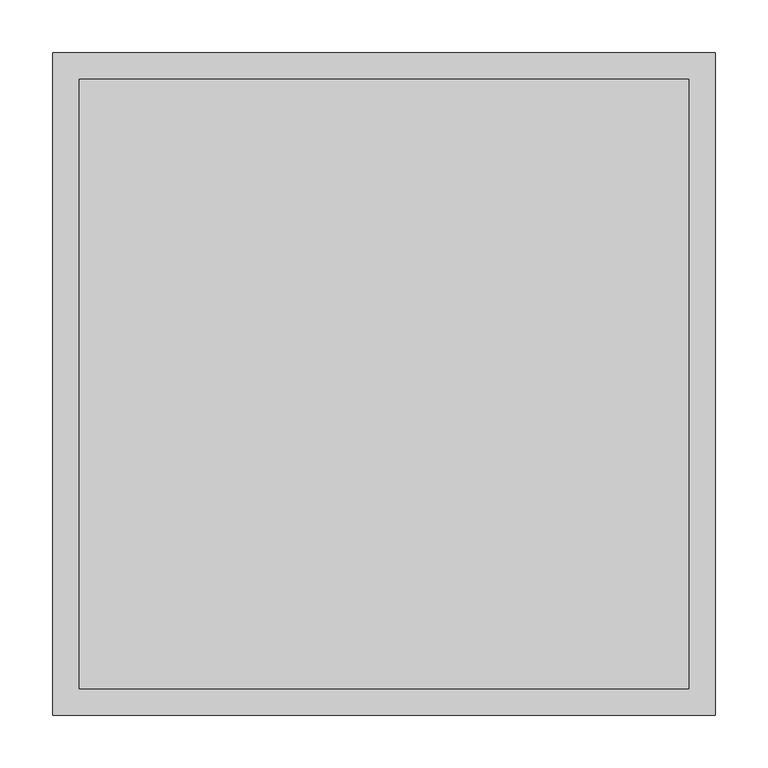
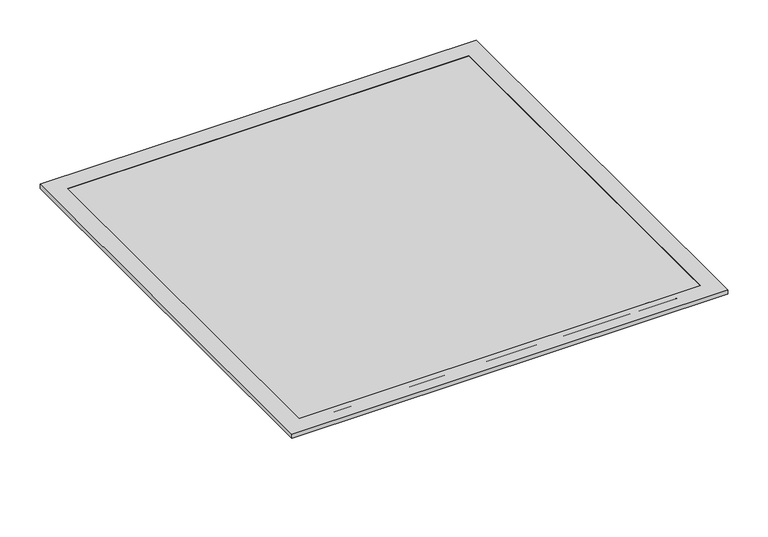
"""IFC4 building model written with IfcOpenShell, lengths in millimetres: air terminal geometry, Titus-Round_Neck_Supply_Diffuser-PCS_Surface_Mount : PCS AA-12_24x24."""

from ifc_helpers import new_model, si_unit, point, frame, origin, origin_2d, place, context, project, spatial, polyline, circle_curve, trimmed, segment, composite_curve, outline, extrude, faceted_brep, source, transform, mapped, element, save


def air_terminal_edad7168(model_context):
    return source(origin(), model_context, "Body", "SolidModel", [
        faceted_brep([(-314.325, -314.325, 0.0), (314.325, -314.325, 0.0), (314.325, -314.325, 6.35), (-314.325, -314.325, 6.35), (-288.925, -288.925, 6.35), (288.925, -288.925, 6.35), (288.925, -288.925, 5.55625), (-288.925, -288.925, 5.55625), (314.325, 314.325, 0.0), (314.325, 314.325, 6.35), (288.925, 288.925, 6.35), (288.925, 288.925, 5.55625), (-314.325, 314.325, 0.0), (-314.325, 314.325, 6.35), (-288.925, 288.925, 6.35), (-288.925, 288.925, 5.55625), (-313.53125, -313.53125, 0.0), (313.53125, -313.53125, 0.0), (313.53125, 313.53125, 0.0), (-313.53125, 313.53125, 0.0), (-313.53125, -313.53125, 5.55625), (313.53125, -313.53125, 5.55625), (313.53125, 313.53125, 5.55625), (-313.53125, 313.53125, 5.55625)], [[[0, 1, 2, 3]], [[4, 5, 6, 7]], [[1, 8, 9, 2]], [[5, 10, 11, 6]], [[8, 12, 13, 9]], [[10, 14, 15, 11]], [[3, 2, 9, 13], [5, 4, 14, 10]], [[12, 0, 3, 13]], [[1, 0, 12, 8], [16, 17, 18, 19]], [[14, 4, 7, 15]], [[20, 21, 17, 16]], [[21, 22, 18, 17]], [[22, 23, 19, 18]], [[23, 20, 16, 19]], [[21, 20, 23, 22], [7, 6, 11, 15]]]),
        faceted_brep([(228.6, -228.6, -50.8), (-228.6, -228.6, -50.8), (-228.6, 228.6, -50.8), (228.6, 228.6, -50.8), (267.5193548, -267.5193548, -19.05), (-267.5193548, -267.5193548, -19.05), (-267.5193548, 267.5193548, -19.05), (267.5193548, 267.5193548, -19.05), (288.925, -288.925, -19.05), (-288.925, -288.925, -19.05), (-288.925, 288.925, -19.05), (288.925, 288.925, -19.05), (288.925, -288.925, -1.5875), (288.925, -288.925, 4.7625), (-288.925, -288.925, 4.7625), (-288.925, -288.925, -1.5875), (-288.925, 288.925, 4.7625), (-288.925, 288.925, -1.5875), (288.925, 288.925, 4.7625), (288.925, 288.925, -1.5875), (301.625, -301.625, 5.55625), (301.625, 301.625, 5.55625), (-301.625, 301.625, 5.55625), (-301.625, -301.625, 5.55625), (301.625, -301.625, 4.7625), (-301.625, -301.625, 4.7625), (-301.625, 301.625, 4.7625), (301.625, 301.625, 4.7625)], [[[0, 1, 2, 3]], [[0, 4, 5, 1]], [[1, 5, 6, 2]], [[2, 6, 7, 3]], [[3, 7, 4, 0]], [[8, 9, 10, 11], [4, 7, 6, 5]], [[8, 12, 13, 14, 15, 9]], [[9, 15, 14, 16, 17, 10]], [[10, 17, 16, 18, 19, 11]], [[11, 19, 18, 13, 12, 8]], [[20, 21, 22, 23]], [[24, 25, 26, 27], [13, 18, 16, 14]], [[23, 25, 24, 20]], [[22, 26, 25, 23]], [[21, 27, 26, 22]], [[20, 24, 27, 21]]]),
        extrude(outline(polyline([(288.925, -288.925), (-288.925, -288.925), (-288.925, 288.925), (288.925, 288.925), (288.925, -288.925)])), frame((0.0, 0.0, 5.55625), z_axis=(0.0, 0.0, 1.0), x_axis=(1.0, 0.0, 0.0)), (0.0, 0.0, 1.0), 0.79375),
        extrude(outline(composite_curve([segment(trimmed(circle_curve(origin_2d(), 150.8125), [point((-150.8125, 0.0))], [point((150.8125, 0.0))], False, "CARTESIAN"), True, "CONTINUOUS"), segment(trimmed(circle_curve(origin_2d(), 150.8125), [point((150.8125, 0.0))], [point((-150.8125, 0.0))], False, "CARTESIAN"), True, "CONTINUOUS")], self_intersect=False), holes=[composite_curve([segment(trimmed(circle_curve(origin_2d(), 149.225), [point((-149.225, 0.0))], [point((149.225, 0.0))], True, "CARTESIAN"), True, "CONTINUOUS"), segment(trimmed(circle_curve(origin_2d(), 149.225), [point((149.225, 0.0))], [point((-149.225, 0.0))], True, "CARTESIAN"), True, "CONTINUOUS")], self_intersect=False)]), frame((0.0, 0.0, -88.9), z_axis=(0.0, 0.0, 1.0), x_axis=(1.0, 0.0, 0.0)), (0.0, 0.0, 1.0), 38.1),
    ])


if __name__ == "__main__":
    model = new_model("IFC4")
    model_context = context("Model", 3, world=origin())
    ifc_project = project(units=[si_unit("LENGTHUNIT", "METRE", prefix="MILLI")], contexts=[model_context])
    site = spatial("IfcSite", under=ifc_project)
    building = spatial("IfcBuilding", under=site)
    placement = place(None, origin())
    air_terminal_shape = air_terminal_edad7168(model_context)
    element("IfcAirTerminal", 1, ObjectType="Titus-Round_Neck_Supply_Diffuser-PCS_Surface_Mount : PCS AA-12_24x24", at=placement, inside=building, context=model_context, shape_type="MappedRepresentation", body=[
        mapped(air_terminal_shape, transform((0.0, 0.0, 0.0), x_axis=(1.0, 0.0, 0.0), y_axis=(0.0, 1.0, 0.0), z_axis=(0.0, 0.0, 1.0))),
    ])
    save(model, "model.ifc")
